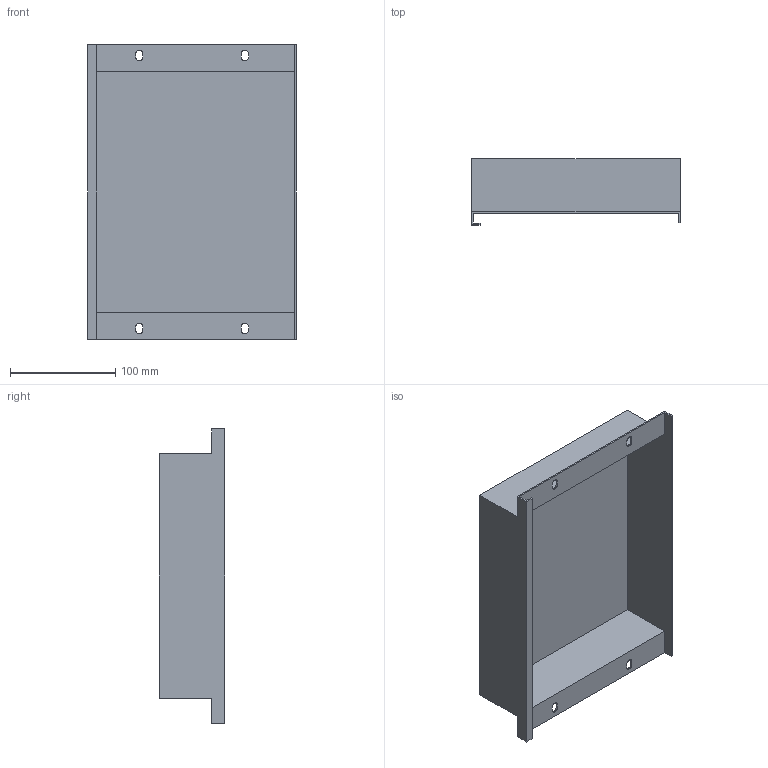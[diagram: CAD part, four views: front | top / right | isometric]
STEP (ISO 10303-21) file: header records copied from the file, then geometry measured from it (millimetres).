
FILE_DESCRIPTION (( 'STEP AP214' ), '1' );
FILE_NAME ('FO-00-PVSU-020-040 Ïëàñòðîí âíóòðåííèé óãëóáëåííûé 200õ400õ50.STEP', '2025-08-27T05:52:14', ( '' ), ( '' ), 'SwSTEP 2.0', 'SolidWorks 2023', '' );
FILE_SCHEMA (( 'AUTOMOTIVE_DESIGN' ));
Length unit declared in the file: millimetre
Products named in the file (1): FO-00-PVSU-020-040 Пластрон внутренний углубленный 200х400х50
Bounding box: 198 x 62.5 x 279 mm (x, y, z)
Volume: 147099.9 mm3; surface area: 211708.2 mm2
Topology: 1 solids, 1 shells, 48 faces, 138 edges, 92 vertices
Faces by surface type: plane 36, cylinder 12
Entity records: 1605 total; most frequent: CARTESIAN_POINT 279, ORIENTED_EDGE 276, DIRECTION 260, EDGE_CURVE 138, LINE 114, VECTOR 114, VERTEX_POINT 92, AXIS2_PLACEMENT_3D 73
